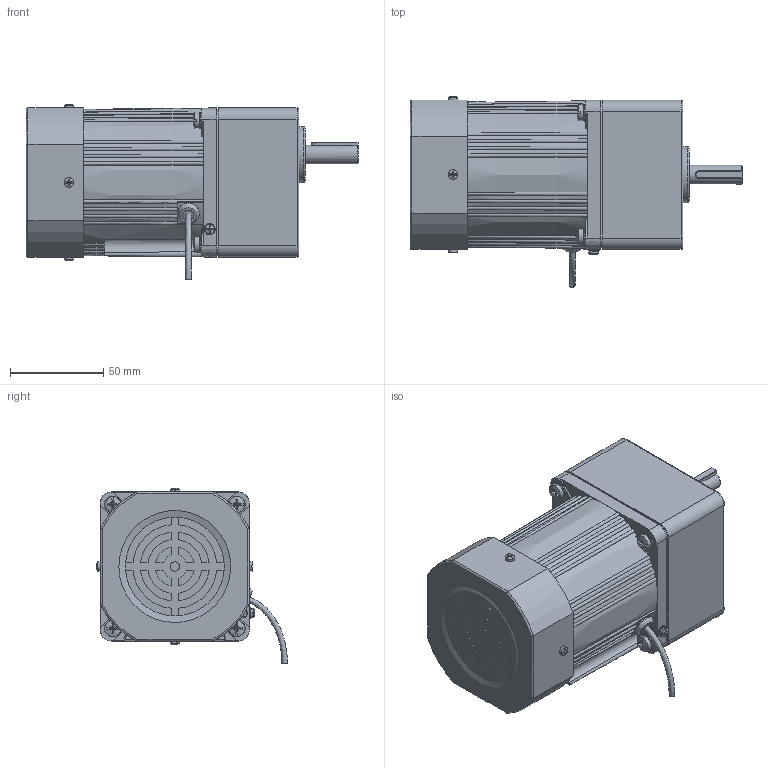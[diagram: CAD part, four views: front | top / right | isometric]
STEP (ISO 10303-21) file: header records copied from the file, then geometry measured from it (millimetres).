
FILE_DESCRIPTION(/* description */ (''),/* implementation_level */ '2;1');
FILE_NAME(/* name */ '4RK25-30CC·F-4GN25-750K-C·10L.stp',/* time_stamp */ '2024-11-02T14:11:40+08:00',/* author */ (''),/* organization */ (''),/* preprocessor_version */ 'ST-DEVELOPER v18.102',/* originating_system */ 'SIEMENS PLM Software NX 2027',/* authorisation */ '');
FILE_SCHEMA (('AP203_CONFIGURATION_CONTROLLED_3D_DESIGN_OF_MECHANICAL_PARTS_AND_ASSEMBLIES_MIM_LF { 1 0 10303 403 2 1 2}'));
Length unit declared in the file: millimetre
Products named in the file (1): 4GN25K-C·10T_stp_YF80306813E7b4xk
Bounding box: 178 x 102.23 x 93.96 mm (x, y, z)
Volume: 818579.5 mm3; surface area: 87894.5 mm2
Topology: 8 solids, 8 shells, 945 faces, 2571 edges, 1681 vertices
Faces by surface type: plane 321, bspline 310, cylinder 181, cone 65, torus 40, sphere 22, revolution 6
Full cylindrical faces by diameter (mm): 2.6 x1, 3.2 x1, 4 x5, 4.2 x8, 4.4 x1, 4.6 x4, 5 x6, 5.1 x5, 5.3 x4, 5.849 x1, 6 x6, 6.5 x4, 8.5 x4, 9 x4, 10 x1, 10.5 x1, 12 x1, 19 x1, 26 x1, 30 x1, 56 x1, 67 x1, 73 x1, 75 x2, 77.5 x1
Entity records: 35792 total; most frequent: CARTESIAN_POINT 15438, ORIENTED_EDGE 4762, DIRECTION 2946, EDGE_CURVE 2381, VERTEX_POINT 1605, B_SPLINE_CURVE_WITH_KNOTS 1249, EDGE_LOOP 1184, AXIS2_PLACEMENT_3D 1172
